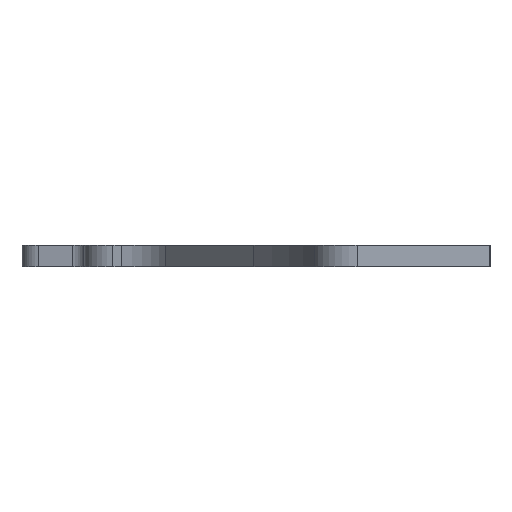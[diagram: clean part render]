
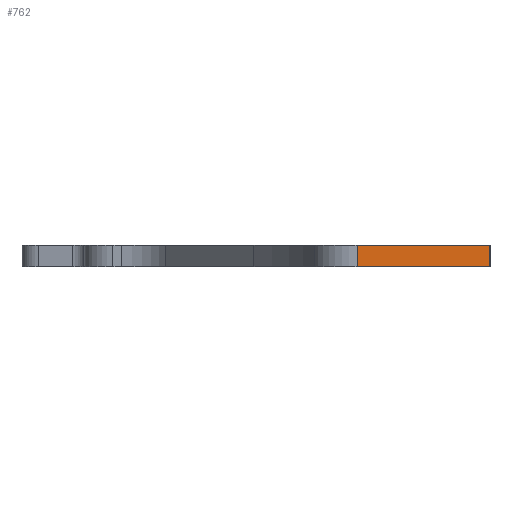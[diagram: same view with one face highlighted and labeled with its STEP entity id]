
A CAD part, front view. The second image highlights one B-rep face of the part: STEP entity #762.
In plain terms, the highlighted planar face has unit normal (0, -1, 0).
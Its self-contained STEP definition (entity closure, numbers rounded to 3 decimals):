
#43=PLANE('',#849);
#76=FACE_OUTER_BOUND('',#115,.T.);
#115=EDGE_LOOP('',(#594,#595,#596,#597));
#180=LINE('',#1270,#243);
#181=LINE('',#1273,#244);
#182=LINE('',#1275,#245);
#183=LINE('',#1276,#246);
#243=VECTOR('',#1033,10.);
#244=VECTOR('',#1036,10.);
#245=VECTOR('',#1037,10.);
#246=VECTOR('',#1038,10.);
#359=VERTEX_POINT('',#1266);
#360=VERTEX_POINT('',#1268);
#361=VERTEX_POINT('',#1272);
#362=VERTEX_POINT('',#1274);
#458=EDGE_CURVE('',#359,#360,#180,.T.);
#459=EDGE_CURVE('',#361,#359,#181,.T.);
#460=EDGE_CURVE('',#362,#360,#182,.T.);
#461=EDGE_CURVE('',#361,#362,#183,.T.);
#594=ORIENTED_EDGE('',*,*,#459,.T.);
#595=ORIENTED_EDGE('',*,*,#458,.T.);
#596=ORIENTED_EDGE('',*,*,#460,.F.);
#597=ORIENTED_EDGE('',*,*,#461,.F.);
#762=ADVANCED_FACE('',(#76),#43,.T.);
#849=AXIS2_PLACEMENT_3D('',#1271,#1034,#1035);
#1033=DIRECTION('',(0.,0.,1.));
#1034=DIRECTION('center_axis',(0.,-1.,0.));
#1035=DIRECTION('ref_axis',(1.,0.,0.));
#1036=DIRECTION('',(1.,0.,0.));
#1037=DIRECTION('',(1.,0.,0.));
#1038=DIRECTION('',(0.,0.,1.));
#1266=CARTESIAN_POINT('',(15.75,-5.5,0.));
#1268=CARTESIAN_POINT('',(15.75,-5.5,2.5));
#1270=CARTESIAN_POINT('',(15.75,-5.5,0.));
#1271=CARTESIAN_POINT('Origin',(0.,-5.5,
0.));
#1272=CARTESIAN_POINT('',(0.,-5.5,0.));
#1273=CARTESIAN_POINT('',(0.,-5.5,0.));
#1274=CARTESIAN_POINT('',(0.,-5.5,2.5));
#1275=CARTESIAN_POINT('',(0.,-5.5,2.5));
#1276=CARTESIAN_POINT('',(0.,-5.5,0.));
